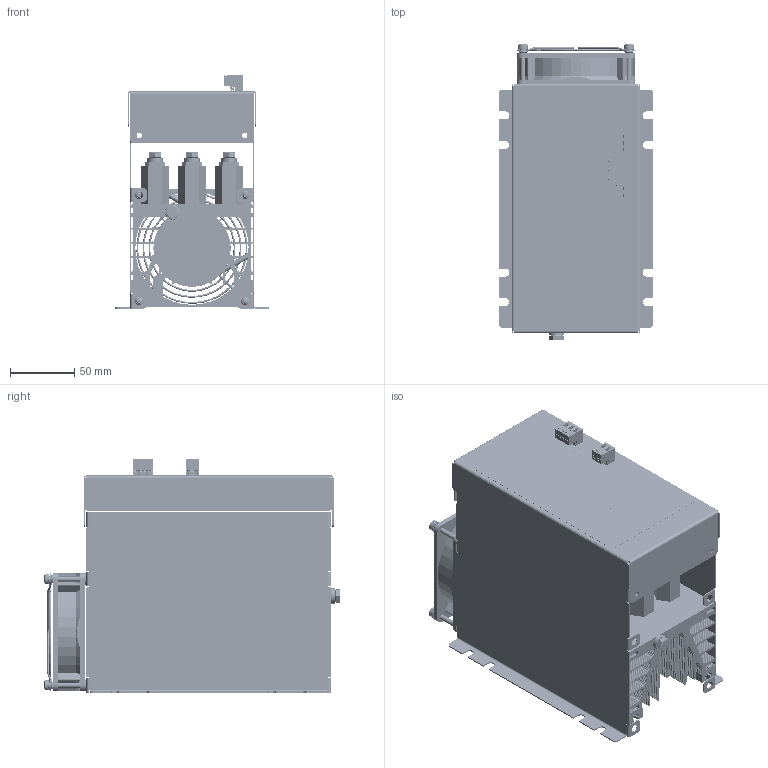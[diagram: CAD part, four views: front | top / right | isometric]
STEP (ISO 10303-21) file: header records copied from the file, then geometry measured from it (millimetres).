
FILE_DESCRIPTION(('STEP AP203'), '1');
FILE_NAME('ÌÒÊ 21-100-480 ÓÕË4', '2025-05-20T05:42:50', (''), ('ÎÎÎ "Ìåàíäð"'), 'C3D Converter', 'C3D Toolkit', '');
FILE_SCHEMA(('CONFIG_CONTROL_DESIGN'));
Length unit declared in the file: millimetre
Products named in the file (4): МТК 21-100-480; -МТК 21; Болт М6х14
Assembly tree (9 placements, depth 2):
  МТК 21-100-480
    -МТК 21
    -МТК 21
    Болт М6х14  x7
Bounding box: 120 x 230.24 x 181.05 mm (x, y, z)
Volume: 701881.6 mm3; surface area: 529229 mm2
Topology: 10 solids, 22 shells, 7574 faces, 21970 edges, 14548 vertices
Faces by surface type: plane 4214, cylinder 2219, extrusion 939, bspline 92, torus 57, cone 43, sphere 10
Full cylindrical faces by diameter (mm): 1.414 x4, 3.3 x4, 3.9 x5, 4 x8, 4.2 x4, 4.3 x12, 5 x10, 6 x17, 6.1 x12, 6.4 x7, 8 x4, 8.9 x7, 9 x8, 9.1 x1, 10.01 x1, 12 x7, 43.5 x1, 60 x1, 88 x1
Entity records: 269250 total; most frequent: CARTESIAN_POINT 69421, ORIENTED_EDGE 42216, DIRECTION 36913, EDGE_CURVE 21110, VECTOR 15325, LINE 14386, VERTEX_POINT 14060, AXIS2_PLACEMENT_3D 10794
